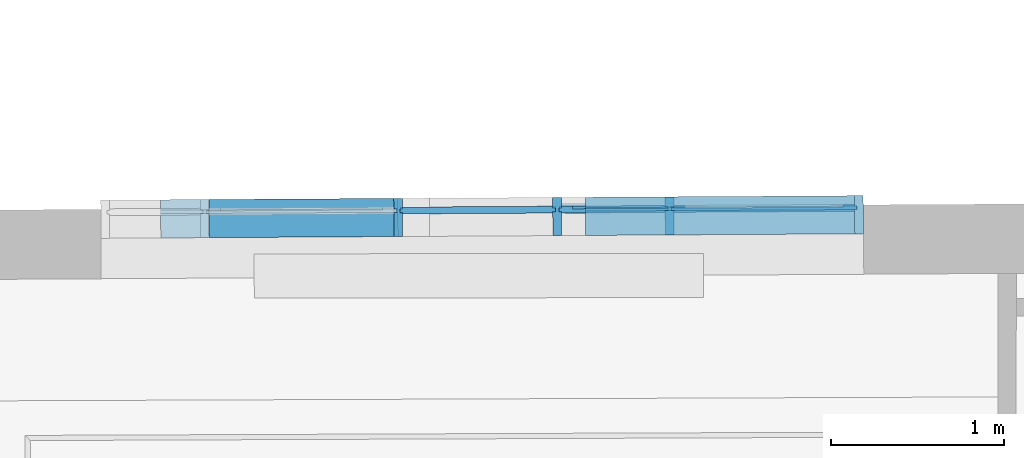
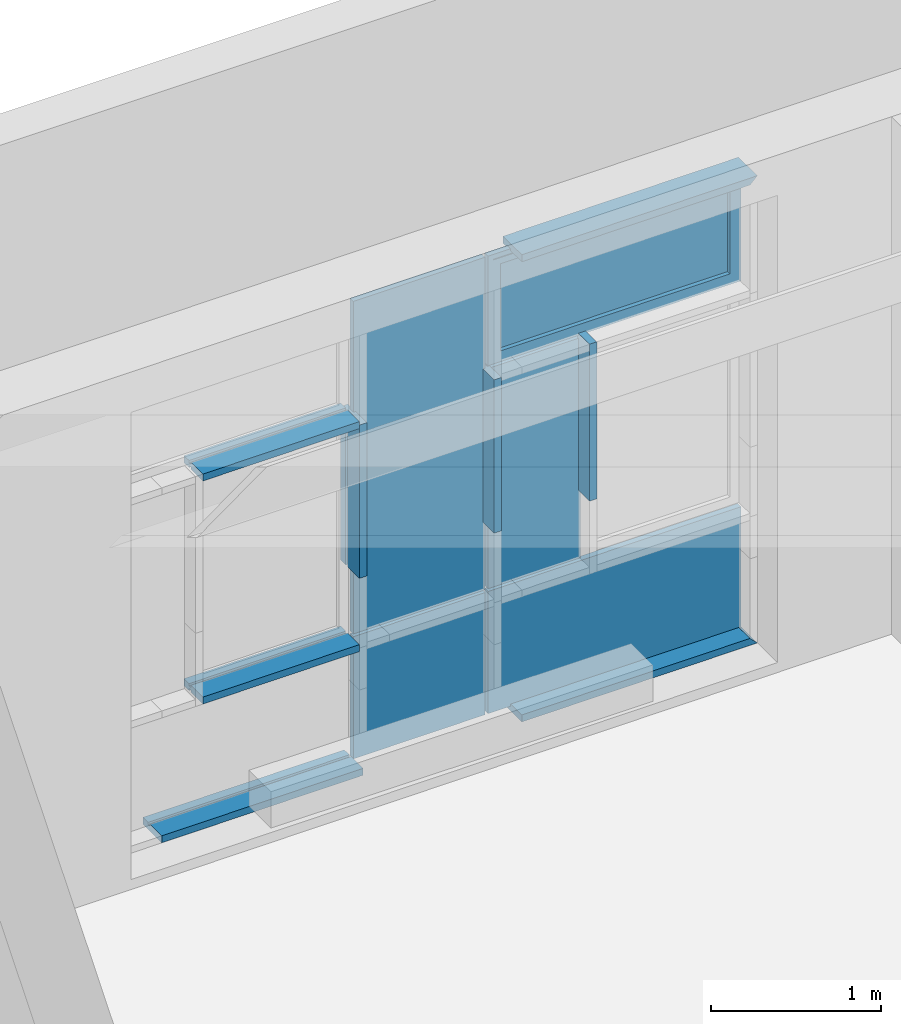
# One storey, part 130 of 196: 14 building element parts, 1 element without a shape of its own.
"""IFC2X3 building model written with IfcOpenShell, lengths in metres."""

from ifc_helpers import new_model, entity, si_unit, converted_unit, derived_unit, money_unit, direction, frame, origin_with_axes, place, context, subcontext, project, spatial, faceted_brep, material, type_object, element, aggregate, save


model = new_model("IFC2X3")

# Units and contexts
model_context = context("Model", 3, precision=1e-05, world=origin_with_axes(), true_north=direction((0.0, 1.0)))
body_context = subcontext(model_context, "Body", "Model", "MODEL_VIEW")
ifc_project = project(units=[si_unit("LENGTHUNIT", "METRE"), si_unit("AREAUNIT", "SQUARE_METRE"), si_unit("VOLUMEUNIT", "CUBIC_METRE"), converted_unit("PLANEANGLEUNIT", "DEGREE", entity("IfcPlaneAngleMeasure", 0.0174532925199), si_unit("PLANEANGLEUNIT", "RADIAN"), dimensions=[0, 0, 0, 0, 0, 0, 0]), money_unit("EUR"), converted_unit("TIMEUNIT", "Year", entity("IfcTimeMeasure", 31556926.0), si_unit("TIMEUNIT", "SECOND"), dimensions=[0, 0, 1, 0, 0, 0, 0]), si_unit("MASSUNIT", "GRAM", prefix="KILO"), si_unit("THERMODYNAMICTEMPERATUREUNIT", "DEGREE_CELSIUS"), si_unit("LUMINOUSINTENSITYUNIT", "LUMEN"), si_unit("ENERGYUNIT", "JOULE", prefix="MEGA"), derived_unit("THERMALCONDUCTANCEUNIT", [(si_unit("POWERUNIT", "WATT"), 1), (si_unit("LENGTHUNIT", "METRE"), -1), (si_unit("THERMODYNAMICTEMPERATUREUNIT", "KELVIN"), -1)]), derived_unit("SPECIFICHEATCAPACITYUNIT", [(si_unit("ENERGYUNIT", "JOULE"), 1), (si_unit("MASSUNIT", "GRAM", prefix="KILO"), -1), (si_unit("THERMODYNAMICTEMPERATUREUNIT", "KELVIN"), -1)]), derived_unit("MASSDENSITYUNIT", [(si_unit("MASSUNIT", "GRAM", prefix="KILO"), 1), (si_unit("VOLUMEUNIT", "CUBIC_METRE"), -1)])], contexts=[model_context])

# Site, building, storey
site_placement = place(None, origin_with_axes())
site = spatial("IfcSite", under=ifc_project, at=site_placement, Name="Gelände", CompositionType="ELEMENT")
building_placement = place(site_placement, origin_with_axes())
building = spatial("IfcBuilding", under=site, at=building_placement, Name="Gebäude", CompositionType="ELEMENT")
storey_placement = place(building_placement, frame((0.0, 0.0, -3.0), z_axis=(0.0, 0.0, 1.0), x_axis=(1.0, 0.0, 0.0)))
storey = spatial("IfcBuildingStorey", under=building, at=storey_placement, Name="KELLERGESCHOSS", CompositionType="ELEMENT", Elevation=-3.0)

# Proxy, building element parts
building_element_proxy_type = type_object("IfcBuildingElementProxyType", Name="Fassadentyp", PredefinedType="NOTDEFINED")
proxy_placement = place(storey_placement, frame((-32.8906294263, 53.9050625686, 0.421025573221), z_axis=(0.0, 0.0, 1.0), x_axis=(1.0, 0.0, 0.0)))
proxy = element("IfcBuildingElementProxy", 1, at=proxy_placement, inside=storey, type_object=building_element_proxy_type, Name="Fassade-002")
ifc_material_1 = material(Name="45_Glas, Normalglas")
building_element_part_1_placement = place(proxy_placement, origin_with_axes())
building_element_part_1 = element("IfcBuildingElementPart", 2, at=building_element_part_1_placement, material=ifc_material_1, Name="45_Glas, Normalglas", context=body_context, shape_type="Brep", body=[
    faceted_brep([(1.41407837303, -0.0116464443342, 3.31499992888), (1.5840909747, -0.0106420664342, 3.31499992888), (1.58385467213, 0.0293572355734, 3.31499992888), (1.41384207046, 0.0283528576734, 3.31499992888), (1.41407837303, -0.0116464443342, 2.52000004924), (1.41407837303, -0.0116464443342, 1.42000003), (1.41407837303, -0.0116464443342, 0.930851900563), (1.5840909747, -0.0106420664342, 0.930851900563), (2.31064331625, -0.00634983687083, 0.930851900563), (2.31064331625, -0.00634983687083, 1.42000003), (2.31064331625, -0.00634983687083, 2.52000004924), (2.31064331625, -0.00634983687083, 3.31499992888), (2.31040701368, 0.0336494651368, 3.31499992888), (2.31040701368, 0.0336494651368, 2.52000004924), (2.31040701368, 0.0336494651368, 1.42000003), (2.31040701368, 0.0336494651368, 0.930851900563), (1.58385467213, 0.0293572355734, 0.930851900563), (1.41384207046, 0.0283528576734, 0.930851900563), (1.41384207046, 0.0283528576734, 1.42000003), (1.41384207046, 0.0283528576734, 2.52000004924)], [[[0, 1, 2, 3]], [[0, 4, 5, 6, 7, 8, 9, 10, 11, 1]], [[1, 11, 12, 2]], [[3, 2, 12, 13, 14, 15, 16, 17, 18, 19]], [[4, 0, 3, 19]], [[5, 4, 19, 18]], [[6, 5, 18, 17]], [[7, 6, 17, 16]], [[8, 7, 16, 15]], [[9, 8, 15, 14]], [[10, 9, 14, 13]], [[11, 10, 13, 12]]]),
])
building_element_part_2_placement = place(proxy_placement, origin_with_axes())
building_element_part_2 = element("IfcBuildingElementPart", 3, at=building_element_part_2_placement, material=ifc_material_1, Name="45_Glas, Normalglas", context=body_context, shape_type="Brep", body=[
    faceted_brep([(2.33064297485, -0.00623168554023, 2.51000004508), (2.48407526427, -0.00532525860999, 2.51000004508), (2.4838389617, 0.0346740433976, 2.51000004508), (2.33040667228, 0.0337676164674, 2.51000004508), (2.33064297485, -0.00623168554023, 1.4200000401), (2.33064297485, -0.00623168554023, 0.93085188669), (2.48407526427, -0.00532525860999, 0.93085191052), (2.9594657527, -0.00251680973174, 0.93085188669), (2.9594657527, -0.00251680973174, 1.4200000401), (2.95946572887, -0.00251680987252, 2.51000004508), (2.9592294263, 0.0374824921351, 2.51000004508), (2.95922945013, 0.0374824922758, 1.4200000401), (2.95922945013, 0.0374824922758, 0.93085188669), (2.4838389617, 0.0346740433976, 0.93085191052), (2.33040667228, 0.0337676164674, 0.93085188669), (2.33040667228, 0.0337676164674, 1.4200000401)], [[[0, 1, 2, 3]], [[0, 4, 5, 6, 7, 8, 9, 1]], [[1, 9, 10, 2]], [[3, 2, 10, 11, 12, 13, 14, 15]], [[4, 0, 3, 15]], [[5, 4, 15, 14]], [[6, 5, 14, 13]], [[7, 6, 13, 12]], [[8, 7, 12, 11]], [[9, 8, 11, 10]]]),
])
ifc_material_2 = material(Name="53_Metall, Aluminium")
building_element_part_3_placement = place(proxy_placement, origin_with_axes())
building_element_part_3 = element("IfcBuildingElementPart", 4, at=building_element_part_3_placement, material=ifc_material_2, Name="53_Metall, Aluminium", context=body_context, shape_type="Brep", body=[
    faceted_brep([(4.03681666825, 0.0538486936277, 2.54500003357), (2.34534733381, 0.0438560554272, 2.54500003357), (2.34531779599, 0.0488559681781, 2.54500003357), (4.03678713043, 0.0588486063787, 2.54500003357), (3.9918174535, 0.0535828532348, 2.59000003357), (2.39034654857, 0.04412189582, 2.59000003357), (2.39031701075, 0.049121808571, 2.59000003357), (3.99178791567, 0.0585827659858, 2.59000003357)], [[[0, 1, 2, 3]], [[0, 4, 5, 1]], [[1, 5, 6, 2]], [[3, 2, 6, 7]], [[4, 0, 3, 7]], [[5, 4, 7, 6]]]),
    faceted_brep([(2.34534733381, 0.0438560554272, 2.54500003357), (2.34534733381, 0.0438560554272, 3.29999995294), (2.34531779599, 0.0488559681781, 3.29999995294), (2.34531779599, 0.0488559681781, 2.54500003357), (2.39034654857, 0.04412189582, 2.59000003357), (2.39034654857, 0.04412189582, 3.25499995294), (2.39031701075, 0.049121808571, 3.25499995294), (2.39031701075, 0.049121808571, 2.59000003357)], [[[0, 1, 2, 3]], [[0, 4, 5, 1]], [[1, 5, 6, 2]], [[3, 2, 6, 7]], [[4, 0, 3, 7]], [[5, 4, 7, 6]]]),
    faceted_brep([(4.03681666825, 0.0538486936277, 3.29999995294), (3.9918174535, 0.0535828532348, 3.25499995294), (3.99178791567, 0.0585827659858, 3.25499995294), (4.03678713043, 0.0588486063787, 3.29999995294), (2.34534733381, 0.0438560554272, 3.29999995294), (2.39034654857, 0.04412189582, 3.25499995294), (2.39031701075, 0.049121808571, 3.25499995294), (2.34531779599, 0.0488559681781, 3.29999995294)], [[[0, 1, 2, 3]], [[0, 4, 5, 1]], [[1, 5, 6, 2]], [[3, 2, 6, 7]], [[4, 0, 3, 7]], [[5, 4, 7, 6]]]),
    faceted_brep([(4.03681666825, 0.0538486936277, 2.54500003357), (3.9918174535, 0.0535828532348, 2.59000003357), (3.99178791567, 0.0585827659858, 2.59000003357), (4.03678713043, 0.0588486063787, 2.54500003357), (4.03681666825, 0.0538486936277, 3.29999995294), (3.9918174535, 0.0535828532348, 3.25499995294), (3.99178791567, 0.0585827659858, 3.25499995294), (4.03678713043, 0.0588486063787, 3.29999995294)], [[[0, 1, 2, 3]], [[0, 4, 5, 1]], [[1, 5, 6, 2]], [[3, 2, 6, 7]], [[4, 0, 3, 7]], [[5, 4, 7, 6]]]),
    faceted_brep([(4.03711204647, 0.00384956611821, 2.54500003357), (2.34564271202, -0.00614307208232, 2.54500003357), (2.34534733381, 0.0438560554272, 2.54500003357), (4.03681666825, 0.0538486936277, 2.54500003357), (4.01711239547, 0.00373141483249, 2.56500003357), (2.36564236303, -0.00602492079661, 2.56500003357), (2.36534698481, 0.0439742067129, 2.56500003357), (4.01681701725, 0.053730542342, 2.56500003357)], [[[0, 1, 2, 3]], [[0, 4, 5, 1]], [[1, 5, 6, 2]], [[3, 2, 6, 7]], [[4, 0, 3, 7]], [[5, 4, 7, 6]]]),
    faceted_brep([(2.34564271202, -0.00614307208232, 2.54500003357), (2.34564271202, -0.00614307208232, 3.29999995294), (2.34534733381, 0.0438560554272, 3.29999995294), (2.34534733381, 0.0438560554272, 2.54500003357), (2.36564236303, -0.00602492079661, 2.56500003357), (2.36564236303, -0.00602492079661, 3.27999995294), (2.36534698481, 0.0439742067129, 3.27999995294), (2.36534698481, 0.0439742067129, 2.56500003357)], [[[0, 1, 2, 3]], [[0, 4, 5, 1]], [[1, 5, 6, 2]], [[3, 2, 6, 7]], [[4, 0, 3, 7]], [[5, 4, 7, 6]]]),
    faceted_brep([(4.03711204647, 0.00384956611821, 3.29999995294), (4.01711239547, 0.00373141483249, 3.27999995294), (4.01681701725, 0.053730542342, 3.27999995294), (4.03681666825, 0.0538486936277, 3.29999995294), (2.34564271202, -0.00614307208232, 3.29999995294), (2.36564236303, -0.00602492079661, 3.27999995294), (2.36534698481, 0.0439742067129, 3.27999995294), (2.34534733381, 0.0438560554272, 3.29999995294)], [[[0, 1, 2, 3]], [[0, 4, 5, 1]], [[1, 5, 6, 2]], [[3, 2, 6, 7]], [[4, 0, 3, 7]], [[5, 4, 7, 6]]]),
    faceted_brep([(4.03711204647, 0.00384956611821, 2.54500003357), (4.01711239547, 0.00373141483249, 2.56500003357), (4.01681701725, 0.053730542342, 2.56500003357), (4.03681666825, 0.0538486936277, 2.54500003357), (4.03711204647, 0.00384956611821, 3.29999995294), (4.01711239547, 0.00373141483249, 3.27999995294), (4.01681701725, 0.053730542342, 3.27999995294), (4.03681666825, 0.0538486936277, 3.29999995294)], [[[0, 1, 2, 3]], [[0, 4, 5, 1]], [[1, 5, 6, 2]], [[3, 2, 6, 7]], [[4, 0, 3, 7]], [[5, 4, 7, 6]]]),
    faceted_brep([(4.05211178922, 0.00393817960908, 2.53000002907), (2.33064296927, -0.00623168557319, 2.53000002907), (2.3304066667, 0.0337676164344, 2.53000002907), (4.05187548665, 0.0439374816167, 2.53000002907), (4.03711204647, 0.00384956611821, 2.54500003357), (2.34564271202, -0.00614307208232, 2.54500003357), (2.34540640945, 0.0338562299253, 2.54500003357), (4.0368757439, 0.0438488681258, 2.54500003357)], [[[0, 1, 2, 3]], [[0, 4, 5, 1]], [[1, 5, 6, 2]], [[3, 2, 6, 7]], [[4, 0, 3, 7]], [[5, 4, 7, 6]]]),
    faceted_brep([(2.33064296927, -0.00623168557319, 2.53000002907), (2.33064296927, -0.00623168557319, 3.31499993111), (2.3304066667, 0.0337676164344, 3.31499993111), (2.3304066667, 0.0337676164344, 2.53000002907), (2.34564271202, -0.00614307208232, 2.54500003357), (2.34564271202, -0.00614307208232, 3.29999995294), (2.34540640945, 0.0338562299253, 3.29999995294), (2.34540640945, 0.0338562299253, 2.54500003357)], [[[0, 1, 2, 3]], [[0, 4, 5, 1]], [[1, 5, 6, 2]], [[3, 2, 6, 7]], [[4, 0, 3, 7]], [[5, 4, 7, 6]]]),
    faceted_brep([(2.33064296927, -0.00623168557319, 3.31499993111), (4.05211178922, 0.00393817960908, 3.31499993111), (4.05187548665, 0.0439374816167, 3.31499993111), (2.3304066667, 0.0337676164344, 3.31499993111), (2.34564271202, -0.00614307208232, 3.29999995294), (4.03711204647, 0.00384956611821, 3.29999995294), (4.0368757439, 0.0438488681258, 3.29999995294), (2.34540640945, 0.0338562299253, 3.29999995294)], [[[0, 1, 2, 3]], [[0, 4, 5, 1]], [[1, 5, 6, 2]], [[3, 2, 6, 7]], [[4, 0, 3, 7]], [[5, 4, 7, 6]]]),
    faceted_brep([(4.05211178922, 0.00393817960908, 3.31499993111), (4.05211178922, 0.00393817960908, 2.53000002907), (4.05187548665, 0.0439374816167, 2.53000002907), (4.05187548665, 0.0439374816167, 3.31499993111), (4.03711204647, 0.00384956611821, 3.29999995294), (4.03711204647, 0.00384956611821, 2.54500003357), (4.0368757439, 0.0438488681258, 2.54500003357), (4.0368757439, 0.0438488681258, 3.29999995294)], [[[0, 1, 2, 3]], [[0, 4, 5, 1]], [[1, 5, 6, 2]], [[3, 2, 6, 7]], [[4, 0, 3, 7]], [[5, 4, 7, 6]]]),
    faceted_brep([(3.97181780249, 0.0534647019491, 2.61000003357), (3.97214271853, -0.00153433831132, 2.61000003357), (3.97214271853, -0.00153433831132, 3.23499995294), (3.97181780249, 0.0534647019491, 3.23499995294), (4.01681701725, 0.053730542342, 2.56500003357), (4.01714193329, -0.00126849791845, 2.56500003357), (4.01714193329, -0.00126849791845, 3.27999995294), (4.01681701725, 0.053730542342, 3.27999995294)], [[[0, 1, 2, 3]], [[4, 5, 1, 0]], [[1, 5, 6, 2]], [[3, 2, 6, 7]], [[0, 3, 7, 4]], [[7, 6, 5, 4]]]),
    faceted_brep([(2.36534698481, 0.0439742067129, 2.56500003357), (2.36567190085, -0.0110248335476, 2.56500003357), (2.36567190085, -0.0110248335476, 3.27999995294), (2.36534698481, 0.0439742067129, 3.27999995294), (2.41034619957, 0.0442400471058, 2.61000003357), (2.41067111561, -0.0107589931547, 2.61000003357), (2.41067111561, -0.0107589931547, 3.23499995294), (2.41034619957, 0.0442400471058, 3.23499995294)], [[[0, 1, 2, 3]], [[4, 5, 1, 0]], [[1, 5, 6, 2]], [[3, 2, 6, 7]], [[0, 3, 7, 4]], [[7, 6, 5, 4]]]),
    faceted_brep([(2.36534698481, 0.0439742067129, 2.56500003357), (2.36567190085, -0.0110248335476, 2.56500003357), (2.41067111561, -0.0107589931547, 2.61000003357), (2.41034619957, 0.0442400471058, 2.61000003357), (4.01681701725, 0.053730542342, 2.56500003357), (4.01714193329, -0.00126849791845, 2.56500003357), (3.97214271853, -0.00153433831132, 2.61000003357), (3.97181780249, 0.0534647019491, 2.61000003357)], [[[0, 1, 2, 3]], [[4, 5, 1, 0]], [[1, 5, 6, 2]], [[3, 2, 6, 7]], [[0, 3, 7, 4]], [[7, 6, 5, 4]]]),
    faceted_brep([(4.01681701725, 0.053730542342, 3.27999995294), (4.01714193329, -0.00126849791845, 3.27999995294), (3.97214271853, -0.00153433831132, 3.23499995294), (3.97181780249, 0.0534647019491, 3.23499995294), (2.36534698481, 0.0439742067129, 3.27999995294), (2.36567190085, -0.0110248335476, 3.27999995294), (2.41067111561, -0.0107589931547, 3.23499995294), (2.41034619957, 0.0442400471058, 3.23499995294)], [[[0, 1, 2, 3]], [[4, 5, 1, 0]], [[1, 5, 6, 2]], [[3, 2, 6, 7]], [[0, 3, 7, 4]], [[7, 6, 5, 4]]]),
])
building_element_part_4_placement = place(proxy_placement, origin_with_axes())
building_element_part_4 = element("IfcBuildingElementPart", 5, at=building_element_part_4_placement, material=ifc_material_1, Name="45_Glas, Normalglas", context=body_context, shape_type="Brep", body=[
    faceted_brep([(3.97187687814, 0.0434648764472, 2.61000003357), (3.97197139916, 0.0274651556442, 2.61000003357), (2.41049979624, 0.0182405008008, 2.61000003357), (2.41040527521, 0.0342402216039, 2.61000003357), (3.97187687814, 0.0434648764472, 3.23499995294), (3.97197139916, 0.0274651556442, 3.23499995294), (2.41049979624, 0.0182405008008, 3.23499995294), (2.41040527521, 0.0342402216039, 3.23499995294)], [[[0, 1, 2, 3]], [[4, 5, 1, 0]], [[1, 5, 6, 2]], [[3, 2, 6, 7]], [[0, 3, 7, 4]], [[7, 6, 5, 4]]]),
])
building_element_part_5_placement = place(proxy_placement, origin_with_axes())
building_element_part_5 = element("IfcBuildingElementPart", 6, at=building_element_part_5_placement, material=ifc_material_1, Name="45_Glas, Normalglas", context=body_context, shape_type="Brep", body=[
    faceted_brep([(2.33064296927, -0.0062316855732, 0.910851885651), (2.48407526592, -0.00532525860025, 0.910851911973), (2.48383896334, 0.0346740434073, 0.910851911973), (2.3304066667, 0.0337676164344, 0.910851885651), (2.33064296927, -0.0062316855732, 0.620000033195), (2.33064296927, -0.0062316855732, 0.0349999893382), (2.48407526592, -0.00532525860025, 0.0349999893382), (4.05211178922, 0.00393817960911, 0.0349999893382), (4.05211178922, 0.00393817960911, 0.620000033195), (4.05211178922, 0.00393817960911, 0.910851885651), (2.96946555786, -0.00245773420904, 0.910851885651), (2.96922925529, 0.0375415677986, 0.910851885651), (4.05187548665, 0.0439374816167, 0.910851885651), (4.05187548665, 0.0439374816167, 0.620000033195), (4.05187548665, 0.0439374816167, 0.0349999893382), (2.48383896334, 0.0346740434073, 0.0349999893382), (2.3304066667, 0.0337676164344, 0.0349999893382), (2.3304066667, 0.0337676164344, 0.620000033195)], [[[0, 1, 2, 3]], [[0, 4, 5, 6, 7, 8, 9, 10, 1]], [[1, 10, 11, 2]], [[3, 2, 11, 12, 13, 14, 15, 16, 17]], [[4, 0, 3, 17]], [[5, 4, 17, 16]], [[6, 5, 16, 15]], [[7, 6, 15, 14]], [[8, 7, 14, 13]], [[9, 8, 13, 12]], [[10, 9, 12, 11]]]),
])
building_element_part_6_placement = place(proxy_placement, origin_with_axes())
building_element_part_6 = element("IfcBuildingElementPart", 7, at=building_element_part_6_placement, material=ifc_material_1, Name="45_Glas, Normalglas", context=body_context, shape_type="Brep", body=[
    faceted_brep([(1.41407836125, -0.0116464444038, 0.910851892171), (1.58409095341, -0.01064206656, 0.910851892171), (1.58385465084, 0.0293572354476, 0.910851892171), (1.41384205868, 0.0283528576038, 0.910851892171), (1.41407836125, -0.0116464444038, 0.620000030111), (1.41407836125, -0.0116464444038, 0.0349999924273), (1.58409095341, -0.01064206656, 0.0349999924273), (2.31064332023, -0.00634983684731, 0.0349999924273), (2.31064332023, -0.00634983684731, 0.620000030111), (2.31064332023, -0.00634983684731, 0.910851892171), (2.31040701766, 0.0336494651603, 0.910851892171), (2.31040701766, 0.0336494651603, 0.620000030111), (2.31040701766, 0.0336494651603, 0.0349999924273), (1.58385465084, 0.0293572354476, 0.0349999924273), (1.41384205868, 0.0283528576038, 0.0349999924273), (1.41384205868, 0.0283528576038, 0.620000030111)], [[[0, 1, 2, 3]], [[0, 4, 5, 6, 7, 8, 9, 1]], [[1, 9, 10, 2]], [[3, 2, 10, 11, 12, 13, 14, 15]], [[4, 0, 3, 15]], [[5, 4, 15, 14]], [[6, 5, 14, 13]], [[7, 6, 13, 12]], [[8, 7, 12, 11]], [[9, 8, 11, 10]]]),
])
building_element_part_7_placement = place(proxy_placement, origin_with_axes())
building_element_part_7 = element("IfcBuildingElementPart", 8, at=building_element_part_7_placement, material=ifc_material_2, Name="53_Metall, Aluminium", context=body_context, shape_type="Brep", body=[
    faceted_brep([(0.313602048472, -0.00814751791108, 2.51000003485), (0.313602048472, -0.00814751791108, 2.49500003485), (0.314429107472, -0.148145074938, 2.49500003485), (0.314429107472, -0.148145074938, 2.54500003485), (0.313602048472, -0.00814751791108, 2.54500003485), (0.313602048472, -0.00814751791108, 2.53000003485), (0.313483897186, 0.0118521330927, 2.53000003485), (0.313483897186, 0.0118521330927, 2.54500003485), (0.313129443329, 0.0718510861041, 2.54500003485), (0.313129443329, 0.0718510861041, 2.49500003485), (0.313483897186, 0.0118521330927, 2.49500003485), (0.313483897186, 0.0118521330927, 2.51000003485), (1.37901989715, -0.00185338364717, 2.51000003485), (1.37901989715, -0.00185338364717, 2.49500003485), (1.37984695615, -0.141850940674, 2.49500003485), (1.37984695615, -0.141850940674, 2.54500003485), (1.37901989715, -0.00185338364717, 2.54500003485), (1.37901989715, -0.00185338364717, 2.53000003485), (1.37890174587, 0.0181462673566, 2.53000003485), (1.37890174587, 0.0181462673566, 2.54500003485), (1.37854729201, 0.078145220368, 2.54500003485), (1.37854729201, 0.078145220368, 2.49500003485), (1.37890174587, 0.0181462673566, 2.49500003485), (1.37890174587, 0.0181462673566, 2.51000003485)], [[[0, 1, 2, 3, 4, 5, 6, 7, 8, 9, 10, 11]], [[1, 0, 12, 13]], [[1, 13, 14, 2]], [[2, 14, 15, 3]], [[4, 3, 15, 16]], [[4, 16, 17, 5]], [[5, 17, 18, 6]], [[7, 6, 18, 19]], [[19, 20, 8, 7]], [[8, 20, 21, 9]], [[22, 10, 9, 21]], [[11, 10, 22, 23]], [[0, 11, 23, 12]], [[23, 22, 21, 20, 19, 18, 17, 16, 15, 14, 13, 12]]]),
])
building_element_part_8_placement = place(proxy_placement, origin_with_axes())
building_element_part_8 = element("IfcBuildingElementPart", 9, at=building_element_part_8_placement, material=ifc_material_2, Name="53_Metall, Aluminium", context=body_context, shape_type="Brep", body=[
    faceted_brep([(0.0340589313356, -0.00979896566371, 0.0349999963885), (0.0339407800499, 0.0102006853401, 0.0349999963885), (0.0339407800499, 0.0102006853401, 0.0499999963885), (0.0335863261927, 0.0701996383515, 0.0499999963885), (0.0335863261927, 0.0701996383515, -3.61150487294e-09), (0.0348859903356, -0.14979652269, -3.61150487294e-09), (0.0348859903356, -0.14979652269, 0.0499999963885), (0.0340589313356, -0.00979896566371, 0.0499999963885), (1.40401946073, -0.0017056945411, 0.0349999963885), (1.40390130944, 0.0182939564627, 0.0349999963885), (1.40390130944, 0.0182939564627, 0.0499999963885), (1.40354685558, 0.0782929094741, 0.0499999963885), (1.40354685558, 0.0782929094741, -3.61150487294e-09), (1.40484651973, -0.141703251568, -3.61150487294e-09), (1.40484651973, -0.141703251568, 0.0499999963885), (1.40401946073, -0.0017056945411, 0.0499999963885)], [[[0, 1, 2, 3, 4, 5, 6, 7]], [[1, 0, 8, 9]], [[10, 2, 1, 9]], [[2, 10, 11, 3]], [[12, 4, 3, 11]], [[13, 5, 4, 12]], [[14, 6, 5, 13]], [[15, 7, 6, 14]], [[0, 7, 15, 8]], [[8, 15, 14, 13, 12, 11, 10, 9]]]),
])
building_element_part_9_placement = place(proxy_placement, origin_with_axes())
building_element_part_9 = element("IfcBuildingElementPart", 10, at=building_element_part_9_placement, material=ifc_material_2, Name="53_Metall, Aluminium", context=body_context, shape_type="Brep", body=[
    faceted_brep([(2.4840161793, 0.00467456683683, 3.31499994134), (2.4840161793, 0.00467456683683, 3.29999994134), (2.4848432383, -0.13532299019, 3.29999994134), (2.4848432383, -0.13532299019, 3.34999994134), (2.48354357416, 0.084673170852, 3.34999994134), (2.48354357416, 0.084673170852, 3.29999994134), (2.48389802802, 0.0246742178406, 3.29999994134), (2.48389802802, 0.0246742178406, 3.31499994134), (4.05205270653, 0.0139380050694, 3.31499994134), (4.03705296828, 0.0138493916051, 3.29999994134), (4.03788002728, -0.126148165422, 3.29999994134), (4.08787915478, -0.125852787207, 3.34999994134), (4.08657949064, 0.0941433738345, 3.34999994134), (4.03658036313, 0.0938479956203, 3.29999994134), (4.03693481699, 0.0338490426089, 3.29999994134), (4.05193455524, 0.0339376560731, 3.31499994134)], [[[0, 1, 2, 3, 4, 5, 6, 7]], [[0, 8, 9, 1]], [[9, 10, 2, 1]], [[2, 10, 11, 3]], [[3, 11, 12, 4]], [[4, 12, 13, 5]], [[6, 5, 13, 14]], [[14, 15, 7, 6]], [[7, 15, 8, 0]], [[8, 15, 14, 13, 12, 11, 10, 9]]]),
])
building_element_part_10_placement = place(proxy_placement, origin_with_axes())
building_element_part_10 = element("IfcBuildingElementPart", 11, at=building_element_part_10_placement, material=ifc_material_2, Name="53_Metall, Aluminium", context=body_context, shape_type="Brep", body=[
    faceted_brep([(0.313602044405, -0.00814751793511, 0.910851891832), (0.313602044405, -0.00814751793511, 0.895851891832), (0.314429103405, -0.148145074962, 0.895851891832), (0.314429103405, -0.148145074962, 0.945851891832), (0.313602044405, -0.00814751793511, 0.945851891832), (0.313602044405, -0.00814751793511, 0.930851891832), (0.313483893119, 0.0118521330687, 0.930851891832), (0.313483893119, 0.0118521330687, 0.945851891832), (0.313129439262, 0.0718510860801, 0.945851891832), (0.313129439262, 0.0718510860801, 0.895851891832), (0.313483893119, 0.0118521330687, 0.895851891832), (0.313483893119, 0.0118521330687, 0.910851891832), (1.37901989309, -0.0018533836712, 0.910851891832), (1.37901989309, -0.0018533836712, 0.895851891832), (1.37984695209, -0.141850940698, 0.895851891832), (1.37984695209, -0.141850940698, 0.945851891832), (1.37901989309, -0.0018533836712, 0.945851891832), (1.37901989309, -0.0018533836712, 0.930851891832), (1.3789017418, 0.0181462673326, 0.930851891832), (1.3789017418, 0.0181462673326, 0.945851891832), (1.37854728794, 0.078145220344, 0.945851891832), (1.37854728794, 0.078145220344, 0.895851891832), (1.3789017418, 0.0181462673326, 0.895851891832), (1.3789017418, 0.0181462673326, 0.910851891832)], [[[0, 1, 2, 3, 4, 5, 6, 7, 8, 9, 10, 11]], [[1, 0, 12, 13]], [[1, 13, 14, 2]], [[2, 14, 15, 3]], [[4, 3, 15, 16]], [[4, 16, 17, 5]], [[5, 17, 18, 6]], [[7, 6, 18, 19]], [[19, 20, 8, 7]], [[8, 20, 21, 9]], [[22, 10, 9, 21]], [[11, 10, 22, 23]], [[0, 11, 23, 12]], [[23, 22, 21, 20, 19, 18, 17, 16, 15, 14, 13, 12]]]),
])
building_element_part_11_placement = place(proxy_placement, origin_with_axes())
building_element_part_11 = element("IfcBuildingElementPart", 12, at=building_element_part_11_placement, material=ifc_material_2, Name="53_Metall, Aluminium", context=body_context, shape_type="Brep", body=[
    faceted_brep([(1.39401963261, -0.00176477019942, 2.52000003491), (1.37901989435, -0.00185338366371, 2.52000003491), (1.37984695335, -0.14185094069, 2.52000003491), (1.42984608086, -0.141555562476, 2.52000003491), (1.42901902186, -0.00155800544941, 2.52000003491), (1.41401928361, -0.0016466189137, 2.52000003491), (1.41390113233, 0.0183530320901, 2.52000003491), (1.42890087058, 0.0184416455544, 2.52000003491), (1.42854641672, 0.0784405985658, 2.52000003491), (1.37854728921, 0.0781452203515, 2.52000003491), (1.37890174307, 0.0181462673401, 2.52000003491), (1.39390148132, 0.0182348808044, 2.52000003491), (1.39401963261, -0.00176477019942, 1.42000003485), (1.37901989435, -0.00185338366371, 1.42000003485), (1.37984695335, -0.14185094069, 1.42000003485), (1.42984608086, -0.141555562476, 1.42000003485), (1.42901902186, -0.00155800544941, 1.42000003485), (1.41401928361, -0.0016466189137, 1.42000003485), (1.41390113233, 0.0183530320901, 1.42000003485), (1.42890087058, 0.0184416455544, 1.42000003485), (1.42854641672, 0.0784405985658, 1.42000003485), (1.37854728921, 0.0781452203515, 1.42000003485), (1.37890174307, 0.0181462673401, 1.42000003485), (1.39390148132, 0.0182348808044, 1.42000003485)], [[[0, 1, 2, 3, 4, 5, 6, 7, 8, 9, 10, 11]], [[1, 0, 12, 13]], [[1, 13, 14, 2]], [[3, 2, 14, 15]], [[4, 3, 15, 16]], [[4, 16, 17, 5]], [[5, 17, 18, 6]], [[7, 6, 18, 19]], [[19, 20, 8, 7]], [[9, 8, 20, 21]], [[22, 10, 9, 21]], [[11, 10, 22, 23]], [[0, 11, 23, 12]], [[23, 22, 21, 20, 19, 18, 17, 16, 15, 14, 13, 12]]]),
])
building_element_part_12_placement = place(proxy_placement, origin_with_axes())
building_element_part_12 = element("IfcBuildingElementPart", 13, at=building_element_part_12_placement, material=ifc_material_2, Name="53_Metall, Aluminium", context=body_context, shape_type="Brep", body=[
    faceted_brep([(2.95940666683, 0.00748301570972, 2.54500003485), (2.94440692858, 0.00739440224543, 2.54500003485), (2.94523398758, -0.132603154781, 2.54500003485), (2.99523311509, -0.132307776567, 2.54500003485), (2.99440605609, 0.00768978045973, 2.54500003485), (2.97940631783, 0.00760116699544, 2.54500003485), (2.97928816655, 0.0276008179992, 2.54500003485), (2.9942879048, 0.0276894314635, 2.54500003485), (2.99393345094, 0.0876883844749, 2.54500003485), (2.94393432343, 0.0873930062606, 2.54500003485), (2.94428877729, 0.0273940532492, 2.54500003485), (2.95928851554, 0.0274826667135, 2.54500003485), (2.95940666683, 0.00748301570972, 1.42000003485), (2.94440692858, 0.00739440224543, 1.42000003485), (2.94523398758, -0.132603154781, 1.42000003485), (2.99523311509, -0.132307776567, 1.42000003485), (2.99440605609, 0.00768978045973, 1.42000003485), (2.97940631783, 0.00760116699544, 1.42000003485), (2.97928816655, 0.0276008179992, 1.42000003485), (2.9942879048, 0.0276894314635, 1.42000003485), (2.99393345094, 0.0876883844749, 1.42000003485), (2.94393432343, 0.0873930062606, 1.42000003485), (2.94428877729, 0.0273940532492, 1.42000003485), (2.95928851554, 0.0274826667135, 1.42000003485)], [[[0, 1, 2, 3, 4, 5, 6, 7, 8, 9, 10, 11]], [[1, 0, 12, 13]], [[1, 13, 14, 2]], [[3, 2, 14, 15]], [[4, 3, 15, 16]], [[4, 16, 17, 5]], [[5, 17, 18, 6]], [[7, 6, 18, 19]], [[19, 20, 8, 7]], [[9, 8, 20, 21]], [[22, 10, 9, 21]], [[11, 10, 22, 23]], [[0, 11, 23, 12]], [[23, 22, 21, 20, 19, 18, 17, 16, 15, 14, 13, 12]]]),
])
building_element_part_13_placement = place(proxy_placement, origin_with_axes())
building_element_part_13 = element("IfcBuildingElementPart", 14, at=building_element_part_13_placement, material=ifc_material_2, Name="53_Metall, Aluminium", context=body_context, shape_type="Brep", body=[
    faceted_brep([(2.48401617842, 0.00467456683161, 0.035), (2.48389802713, 0.0246742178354, 0.035), (2.48389802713, 0.0246742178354, 0.05), (2.48354357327, 0.0846731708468, 0.05), (2.48354357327, 0.0846731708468, 0.0), (2.48484323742, -0.135322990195, 0.0), (2.48484323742, -0.135322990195, 0.05), (2.48401617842, 0.00467456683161, 0.05), (4.05205270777, 0.0139380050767, 0.035), (4.05193455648, 0.0339376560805, 0.035), (4.03693481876, 0.0338490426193, 0.05), (4.0365803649, 0.0938479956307, 0.05), (4.08657949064, 0.0941433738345, 0.0), (4.08787915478, -0.125852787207, 0.0), (4.03788002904, -0.126148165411, 0.05), (4.03705297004, 0.0138493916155, 0.05)], [[[0, 1, 2, 3, 4, 5, 6, 7]], [[1, 0, 8, 9]], [[10, 2, 1, 9]], [[2, 10, 11, 3]], [[4, 3, 11, 12]], [[5, 4, 12, 13]], [[6, 5, 13, 14]], [[15, 7, 6, 14]], [[0, 7, 15, 8]], [[8, 15, 14, 13, 12, 11, 10, 9]]]),
])
building_element_part_14_placement = place(proxy_placement, origin_with_axes())
building_element_part_14 = element("IfcBuildingElementPart", 15, at=building_element_part_14_placement, material=ifc_material_2, Name="53_Metall, Aluminium", context=body_context, shape_type="Brep", body=[
    faceted_brep([(2.31058424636, 0.00364998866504, 2.52000003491), (2.29558450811, 0.00356137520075, 2.52000003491), (2.29641156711, -0.136436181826, 2.52000003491), (2.34641069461, -0.136140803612, 2.52000003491), (2.34558363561, 0.00385675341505, 2.52000003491), (2.33058389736, 0.00376813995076, 2.52000003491), (2.33046574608, 0.0237677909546, 2.52000003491), (2.34546548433, 0.0238564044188, 2.52000003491), (2.34511103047, 0.0838553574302, 2.52000003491), (2.29511190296, 0.0835599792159, 2.52000003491), (2.29546635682, 0.0235610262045, 2.52000003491), (2.31046609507, 0.0236496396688, 2.52000003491), (2.31058424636, 0.00364998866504, 1.42000003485), (2.29558450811, 0.00356137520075, 1.42000003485), (2.29641156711, -0.136436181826, 1.42000003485), (2.34641069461, -0.136140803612, 1.42000003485), (2.34558363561, 0.00385675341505, 1.42000003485), (2.33058389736, 0.00376813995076, 1.42000003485), (2.33046574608, 0.0237677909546, 1.42000003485), (2.34546548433, 0.0238564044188, 1.42000003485), (2.34511103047, 0.0838553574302, 1.42000003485), (2.29511190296, 0.0835599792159, 1.42000003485), (2.29546635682, 0.0235610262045, 1.42000003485), (2.31046609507, 0.0236496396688, 1.42000003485)], [[[0, 1, 2, 3, 4, 5, 6, 7, 8, 9, 10, 11]], [[1, 0, 12, 13]], [[1, 13, 14, 2]], [[3, 2, 14, 15]], [[4, 3, 15, 16]], [[4, 16, 17, 5]], [[5, 17, 18, 6]], [[7, 6, 18, 19]], [[19, 20, 8, 7]], [[9, 8, 20, 21]], [[22, 10, 9, 21]], [[11, 10, 22, 23]], [[0, 11, 23, 12]], [[23, 22, 21, 20, 19, 18, 17, 16, 15, 14, 13, 12]]]),
])
aggregate(proxy, [building_element_part_1, building_element_part_2, building_element_part_3, building_element_part_4, building_element_part_5, building_element_part_6, building_element_part_7, building_element_part_8, building_element_part_9, building_element_part_10, building_element_part_11, building_element_part_12, building_element_part_13, building_element_part_14])

save(model, "model.ifc")
